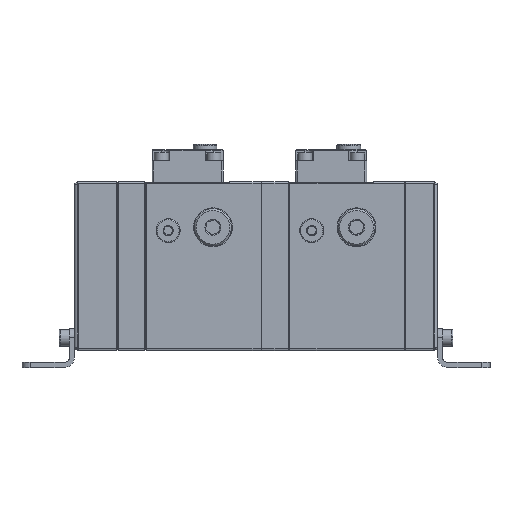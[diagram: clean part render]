
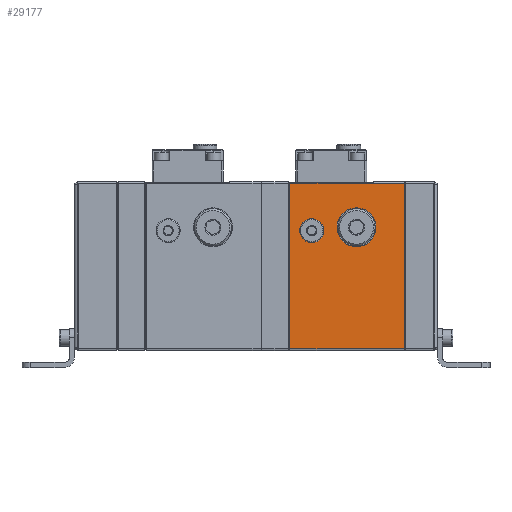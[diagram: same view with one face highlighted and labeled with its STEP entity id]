
A CAD part, left-side view. The second image highlights one B-rep face of the part: STEP entity #29177.
In plain terms, the highlighted planar face has unit normal (-1, 0, 0).
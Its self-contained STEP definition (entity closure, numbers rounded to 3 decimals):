
#1407=LINE('',#42812,#3014);
#1408=LINE('',#42816,#3015);
#1471=LINE('',#43813,#3078);
#1472=LINE('',#43815,#3079);
#1473=LINE('',#43817,#3080);
#3014=VECTOR('',#34215,1000.);
#3015=VECTOR('',#34220,1000.);
#3078=VECTOR('',#34409,1000.);
#3079=VECTOR('',#34410,1000.);
#3080=VECTOR('',#34411,1000.);
#4293=PLANE('',#30825);
#7426=ORIENTED_EDGE('',*,*,#11950,.T.);
#7427=ORIENTED_EDGE('',*,*,#11845,.F.);
#7428=ORIENTED_EDGE('',*,*,#11847,.F.);
#7429=ORIENTED_EDGE('',*,*,#11951,.F.);
#7430=ORIENTED_EDGE('',*,*,#11952,.T.);
#7431=ORIENTED_EDGE('',*,*,#11814,.T.);
#7432=ORIENTED_EDGE('',*,*,#11813,.T.);
#11813=EDGE_CURVE('',#14323,#14323,#15764,.T.);
#11814=EDGE_CURVE('',#14324,#14324,#15765,.T.);
#11845=EDGE_CURVE('',#14344,#14345,#1407,.T.);
#11847=EDGE_CURVE('',#14346,#14344,#1408,.T.);
#11950=EDGE_CURVE('',#14401,#14345,#1471,.T.);
#11951=EDGE_CURVE('',#14402,#14346,#1472,.T.);
#11952=EDGE_CURVE('',#14402,#14401,#1473,.T.);
#14323=VERTEX_POINT('',#42655);
#14324=VERTEX_POINT('',#42658);
#14344=VERTEX_POINT('',#42811);
#14345=VERTEX_POINT('',#42813);
#14346=VERTEX_POINT('',#42817);
#14401=VERTEX_POINT('',#43814);
#14402=VERTEX_POINT('',#43816);
#15764=CIRCLE('',#30741,11.5);
#15765=CIRCLE('',#30743,7.1);
#16812=EDGE_LOOP('',(#7426,#7427,#7428,#7429,#7430));
#16813=EDGE_LOOP('',(#7431));
#16814=EDGE_LOOP('',(#7432));
#18451=FACE_BOUND('',#16812,.T.);
#18452=FACE_BOUND('',#16813,.T.);
#18453=FACE_BOUND('',#16814,.T.);
#29177=ADVANCED_FACE('',(#18451,#18452,#18453),#4293,.T.);
#30741=AXIS2_PLACEMENT_3D('',#42654,#34152,#34153);
#30743=AXIS2_PLACEMENT_3D('',#42657,#34156,#34157);
#30825=AXIS2_PLACEMENT_3D('',#43812,#34407,#34408);
#34152=DIRECTION('',(1.,0.,0.));
#34153=DIRECTION('',(0.,0.,1.));
#34156=DIRECTION('',(1.,0.,0.));
#34157=DIRECTION('',(0.,0.,1.));
#34215=DIRECTION('',(0.,0.,-1.));
#34220=DIRECTION('',(0.,-1.,0.));
#34407=DIRECTION('',(-1.,0.,0.));
#34408=DIRECTION('',(0.,0.,1.));
#34409=DIRECTION('',(0.,-1.,0.));
#34410=DIRECTION('',(0.,-1.,0.));
#34411=DIRECTION('',(0.,0.,-1.));
#42654=CARTESIAN_POINT('',(-50.,28.5,23.));
#42655=CARTESIAN_POINT('',(-50.,28.5,34.5));
#42657=CARTESIAN_POINT('',(-50.,55.,21.));
#42658=CARTESIAN_POINT('',(-50.,55.,28.1));
#42811=CARTESIAN_POINT('',(-50.,0.,49.));
#42812=CARTESIAN_POINT('',(-50.,0.,49.));
#42813=CARTESIAN_POINT('',(-50.,0.,-49.));
#42816=CARTESIAN_POINT('',(-50.,85.,49.));
#42817=CARTESIAN_POINT('',(-50.,18.5,49.));
#43812=CARTESIAN_POINT('',(-50.,85.,49.));
#43813=CARTESIAN_POINT('',(-50.,85.,-49.));
#43814=CARTESIAN_POINT('',(-50.,68.,-49.));
#43815=CARTESIAN_POINT('',(-50.,85.,49.));
#43816=CARTESIAN_POINT('',(-50.,68.,49.));
#43817=CARTESIAN_POINT('',(-50.,68.,49.));
